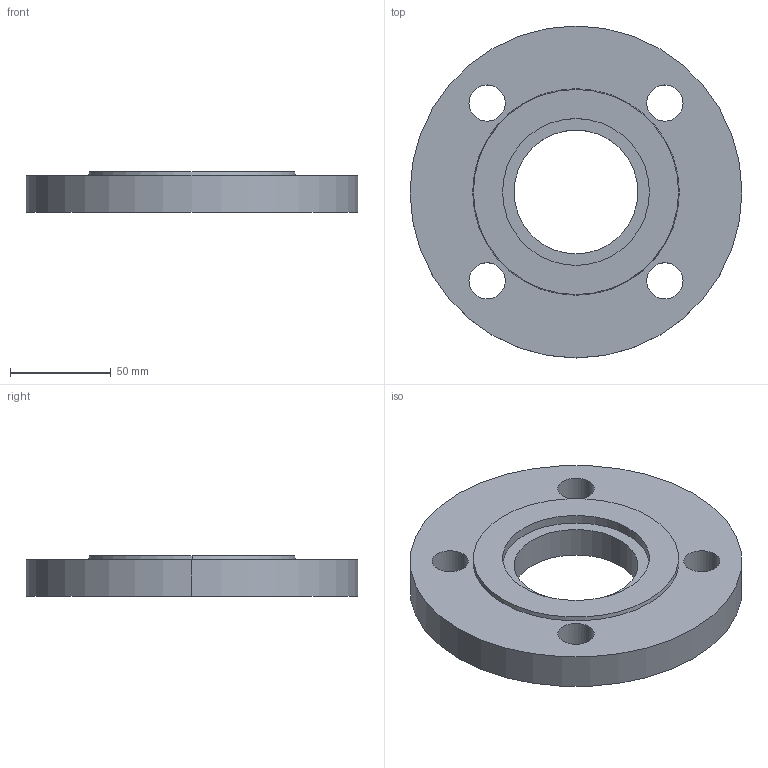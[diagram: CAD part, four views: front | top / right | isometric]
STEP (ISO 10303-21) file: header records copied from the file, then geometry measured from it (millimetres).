
FILE_DESCRIPTION (( 'STEP AP214' ), '1' );
FILE_NAME ('PN40 DN50 Type 01 - Type G Face.STEP', '2018-12-30T04:44:20', ( '' ), ( '' ), 'SwSTEP 2.0', 'SolidWorks 2019', '' );
FILE_SCHEMA (( 'AUTOMOTIVE_DESIGN' ));
Length unit declared in the file: millimetre
Products named in the file (1): PN40 DN50 Type 01 - Type G Face
Bounding box: 165 x 165 x 20 mm (x, y, z)
Volume: 318140.3 mm3; surface area: 52756.4 mm2
Topology: 1 solids, 1 shells, 20 faces, 48 edges, 32 vertices
Faces by surface type: cylinder 14, plane 4, cone 2
Entity records: 658 total; most frequent: DIRECTION 122, CARTESIAN_POINT 101, ORIENTED_EDGE 96, AXIS2_PLACEMENT_3D 53, EDGE_CURVE 48, CIRCLE 32, VERTEX_POINT 32, EDGE_LOOP 32
